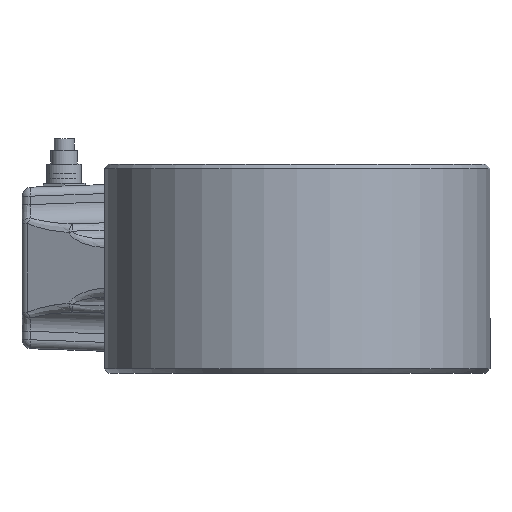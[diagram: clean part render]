
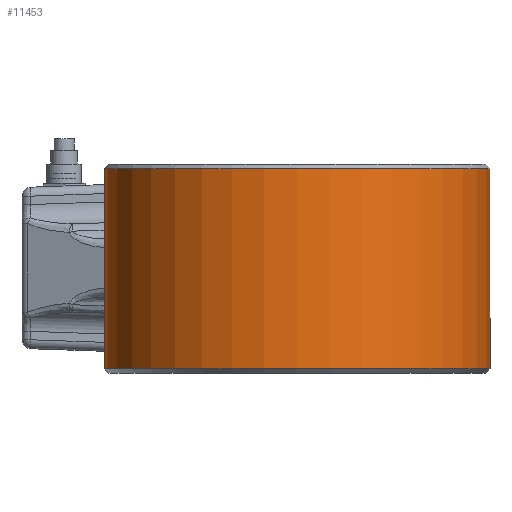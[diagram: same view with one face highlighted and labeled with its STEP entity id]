
A CAD part, left-side view. The second image highlights one B-rep face of the part: STEP entity #11453.
In plain terms, the highlighted cylindrical face has radius 64.5 mm (diameter 129 mm), a partial arc.
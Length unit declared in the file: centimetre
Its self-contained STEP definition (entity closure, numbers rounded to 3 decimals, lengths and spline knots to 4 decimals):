
#2185=VECTOR('',#15590,1.);
#2186=VECTOR('',#15591,1.);
#2717=LINE('',#45036,#2185);
#2718=LINE('',#45050,#2186);
#3805=VERTEX_POINT('',#45021);
#3807=VERTEX_POINT('',#45029);
#3810=VERTEX_POINT('',#45037);
#3812=VERTEX_POINT('',#45049);
#4468=CIRCLE('',#12718,6.45);
#4472=CIRCLE('',#12724,6.45);
#5953=EDGE_CURVE('',#3807,#3805,#4468,.T.);
#5956=EDGE_CURVE('',#3805,#3810,#2717,.T.);
#5959=EDGE_CURVE('',#3807,#3812,#2718,.T.);
#5961=EDGE_CURVE('',#3810,#3812,#4472,.T.);
#8936=ORIENTED_EDGE('',*,*,#5953,.F.);
#8937=ORIENTED_EDGE('',*,*,#5959,.T.);
#8938=ORIENTED_EDGE('',*,*,#5961,.F.);
#8939=ORIENTED_EDGE('',*,*,#5956,.F.);
#9831=EDGE_LOOP('',(#8936,#8937,#8938,#8939));
#10723=FACE_BOUND('',#9831,.T.);
#11453=ADVANCED_FACE('',(#10723),#45332,.T.);
#12718=AXIS2_PLACEMENT_3D('',#45030,#15583,#15584);
#12724=AXIS2_PLACEMENT_3D('',#45053,#15596,#15597);
#12734=AXIS2_PLACEMENT_3D('',#45067,#15614,#15615);
#15583=DIRECTION('',(0.,0.,1.));
#15584=DIRECTION('',(-6.45,0.,0.));
#15590=DIRECTION('',(0.,0.,-1.));
#15591=DIRECTION('',(0.,0.,-1.));
#15596=DIRECTION('',(0.,0.,-1.));
#15597=DIRECTION('',(-6.45,0.,0.));
#15614=DIRECTION('',(0.,0.,-1.));
#15615=DIRECTION('',(-6.45,0.,0.));
#45021=CARTESIAN_POINT('',(-5.519,-8.1523,5.5968));
#45029=CARTESIAN_POINT('',(-5.519,-5.3864,5.5968));
#45030=CARTESIAN_POINT('',(-11.819,-6.7693,5.5968));
#45036=CARTESIAN_POINT('',(-5.519,-8.1523,5.7468));
#45037=CARTESIAN_POINT('',(-5.519,-8.1523,-1.1032));
#45049=CARTESIAN_POINT('',(-5.519,-5.3864,-1.1032));
#45050=CARTESIAN_POINT('',(-5.519,-5.3864,5.7468));
#45053=CARTESIAN_POINT('',(-11.819,-6.7693,-1.1032));
#45067=CARTESIAN_POINT('',(-11.819,-6.7693,5.7468));
#45332=CYLINDRICAL_SURFACE('',#12734,6.45);
